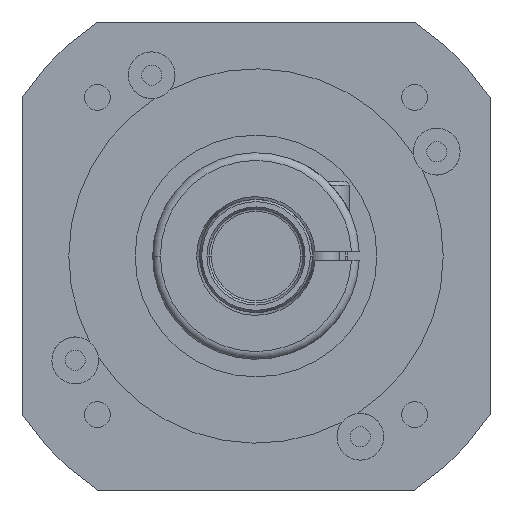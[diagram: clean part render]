
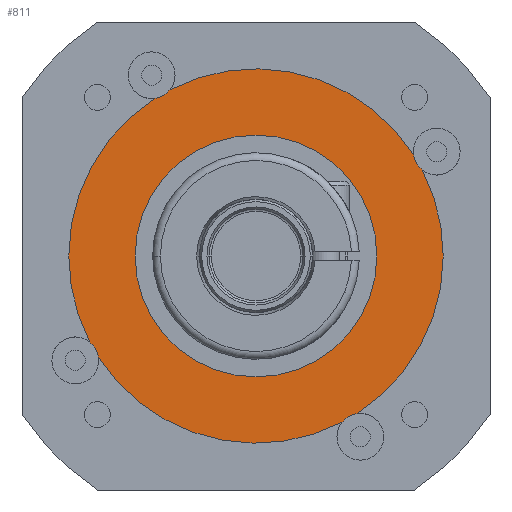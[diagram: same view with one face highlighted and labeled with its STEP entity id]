
A CAD part, left-side view. The second image highlights one B-rep face of the part: STEP entity #811.
In plain terms, the highlighted planar face has unit normal (-1, 0, 0).
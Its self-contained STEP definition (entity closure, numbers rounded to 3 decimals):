
#811=ADVANCED_FACE('',(#1674,#1675),#1676,.F.);
#1674=FACE_BOUND('',#2777,.T.);
#1675=FACE_OUTER_BOUND('',#2778,.T.);
#1676=PLANE('',#2779);
#2777=EDGE_LOOP('',(#4958,#4959));
#2778=EDGE_LOOP('',(#4960,#4961,#4962,#4963,#4964,#4965,#4966,#4967,#4968,#4969));
#2779=AXIS2_PLACEMENT_3D('',#4970,#4971,#4972);
#4958=ORIENTED_EDGE('',*,*,#6311,.T.);
#4959=ORIENTED_EDGE('',*,*,#6312,.T.);
#4960=ORIENTED_EDGE('',*,*,#6313,.F.);
#4961=ORIENTED_EDGE('',*,*,#5606,.F.);
#4962=ORIENTED_EDGE('',*,*,#6314,.F.);
#4963=ORIENTED_EDGE('',*,*,#5629,.F.);
#4964=ORIENTED_EDGE('',*,*,#5767,.F.);
#4965=ORIENTED_EDGE('',*,*,#6315,.F.);
#4966=ORIENTED_EDGE('',*,*,#6266,.F.);
#4967=ORIENTED_EDGE('',*,*,#5801,.F.);
#4968=ORIENTED_EDGE('',*,*,#6114,.F.);
#4969=ORIENTED_EDGE('',*,*,#6129,.F.);
#4970=CARTESIAN_POINT('',(-51.0,0.0,0.0));
#4971=DIRECTION('',(1.0,0.0,0.0));
#4972=DIRECTION('',(0.0,1.0,0.0));
#5606=EDGE_CURVE('',#6669,#6671,#6672,.T.);
#5629=EDGE_CURVE('',#6710,#6712,#6713,.T.);
#5767=EDGE_CURVE('',#6939,#6710,#6941,.T.);
#5801=EDGE_CURVE('',#6989,#6987,#6991,.T.);
#6114=EDGE_CURVE('',#7436,#6989,#7438,.T.);
#6129=EDGE_CURVE('',#7452,#7436,#7454,.T.);
#6266=EDGE_CURVE('',#6987,#7618,#7619,.T.);
#6311=EDGE_CURVE('',#7667,#7668,#7669,.T.);
#6312=EDGE_CURVE('',#7668,#7667,#7670,.T.);
#6313=EDGE_CURVE('',#6671,#7452,#7671,.T.);
#6314=EDGE_CURVE('',#6712,#6669,#7672,.T.);
#6315=EDGE_CURVE('',#7618,#6939,#7673,.T.);
#6669=VERTEX_POINT('',#8129);
#6671=VERTEX_POINT('',#8132);
#6672=CIRCLE('',#8133,48.0);
#6710=VERTEX_POINT('',#8174);
#6712=VERTEX_POINT('',#8177);
#6713=CIRCLE('',#8178,6.0);
#6939=VERTEX_POINT('',#8625);
#6941=CIRCLE('',#8628,48.0);
#6987=VERTEX_POINT('',#8751);
#6989=VERTEX_POINT('',#8754);
#6991=CIRCLE('',#8757,48.0);
#7436=VERTEX_POINT('',#9524);
#7438=CIRCLE('',#9527,6.0);
#7452=VERTEX_POINT('',#9543);
#7454=CIRCLE('',#9546,48.0);
#7618=VERTEX_POINT('',#9872);
#7619=CIRCLE('',#9873,48.0);
#7667=VERTEX_POINT('',#9932);
#7668=VERTEX_POINT('',#9933);
#7669=CIRCLE('',#9934,31.0);
#7670=CIRCLE('',#9935,31.0);
#7671=CIRCLE('',#9936,6.0);
#7672=CIRCLE('',#9937,48.0);
#7673=CIRCLE('',#9938,6.0);
#8129=CARTESIAN_POINT('',(-51.0,-48.0,0.));
#8132=CARTESIAN_POINT('',(-51.0,-25.94,-40.387));
#8133=AXIS2_PLACEMENT_3D('',#10434,#10435,#10436);
#8174=CARTESIAN_POINT('',(-51.0,-40.387,25.94));
#8177=CARTESIAN_POINT('',(-51.0,-42.658,22.007));
#8178=AXIS2_PLACEMENT_3D('',#10483,#10484,#10485);
#8625=CARTESIAN_POINT('',(-51.0,22.007,42.658));
#8628=AXIS2_PLACEMENT_3D('',#10682,#10683,#10684);
#8751=CARTESIAN_POINT('',(-51.0,48.0,0.));
#8754=CARTESIAN_POINT('',(-51.0,42.658,-22.007));
#8757=AXIS2_PLACEMENT_3D('',#10740,#10741,#10742);
#9524=CARTESIAN_POINT('',(-51.0,40.387,-25.94));
#9527=AXIS2_PLACEMENT_3D('',#11244,#11245,#11246);
#9543=CARTESIAN_POINT('',(-51.0,-22.007,-42.658));
#9546=AXIS2_PLACEMENT_3D('',#11268,#11269,#11270);
#9872=CARTESIAN_POINT('',(-51.0,25.94,40.387));
#9873=AXIS2_PLACEMENT_3D('',#11452,#11453,#11454);
#9932=CARTESIAN_POINT('',(-51.0,31.0,0.0));
#9933=CARTESIAN_POINT('',(-51.0,-31.0,0.));
#9934=AXIS2_PLACEMENT_3D('',#11499,#11500,#11501);
#9935=AXIS2_PLACEMENT_3D('',#11502,#11503,#11504);
#9936=AXIS2_PLACEMENT_3D('',#11505,#11506,#11507);
#9937=AXIS2_PLACEMENT_3D('',#11508,#11509,#11510);
#9938=AXIS2_PLACEMENT_3D('',#11511,#11512,#11513);
#10434=CARTESIAN_POINT('',(-51.0,0.0,0.0));
#10435=DIRECTION('',(1.0,0.0,0.0));
#10436=DIRECTION('',(0.0,1.0,0.0));
#10483=CARTESIAN_POINT('',(-51.0,-46.332,26.75));
#10484=DIRECTION('',(-1.0,0.0,0.0));
#10485=DIRECTION('',(0.0,1.0,0.0));
#10682=CARTESIAN_POINT('',(-51.0,0.0,0.0));
#10683=DIRECTION('',(1.0,0.0,0.0));
#10684=DIRECTION('',(0.0,1.0,0.0));
#10740=CARTESIAN_POINT('',(-51.0,0.0,0.0));
#10741=DIRECTION('',(1.0,0.0,0.0));
#10742=DIRECTION('',(0.0,1.0,0.0));
#11244=CARTESIAN_POINT('',(-51.0,46.332,-26.75));
#11245=DIRECTION('',(-1.0,0.0,0.0));
#11246=DIRECTION('',(0.0,1.0,0.0));
#11268=CARTESIAN_POINT('',(-51.0,0.0,0.0));
#11269=DIRECTION('',(1.0,0.0,0.0));
#11270=DIRECTION('',(0.0,1.0,0.0));
#11452=CARTESIAN_POINT('',(-51.0,0.0,0.0));
#11453=DIRECTION('',(1.0,0.0,0.0));
#11454=DIRECTION('',(0.0,1.0,0.0));
#11499=CARTESIAN_POINT('',(-51.0,0.0,0.0));
#11500=DIRECTION('',(1.0,0.0,0.0));
#11501=DIRECTION('',(0.0,1.0,0.0));
#11502=CARTESIAN_POINT('',(-51.0,0.0,0.0));
#11503=DIRECTION('',(1.0,0.0,0.0));
#11504=DIRECTION('',(0.0,1.0,0.0));
#11505=CARTESIAN_POINT('',(-51.0,-26.75,-46.332));
#11506=DIRECTION('',(-1.0,0.0,0.0));
#11507=DIRECTION('',(0.0,1.0,0.0));
#11508=CARTESIAN_POINT('',(-51.0,0.0,0.0));
#11509=DIRECTION('',(1.0,0.0,0.0));
#11510=DIRECTION('',(0.0,1.0,0.0));
#11511=CARTESIAN_POINT('',(-51.0,26.75,46.332));
#11512=DIRECTION('',(-1.0,0.0,0.0));
#11513=DIRECTION('',(0.0,1.0,0.0));
